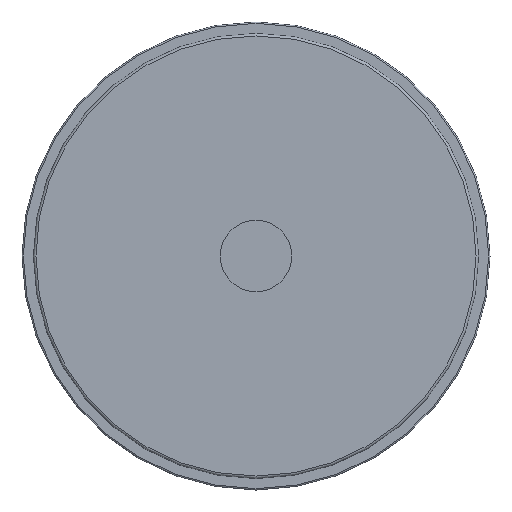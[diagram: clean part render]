
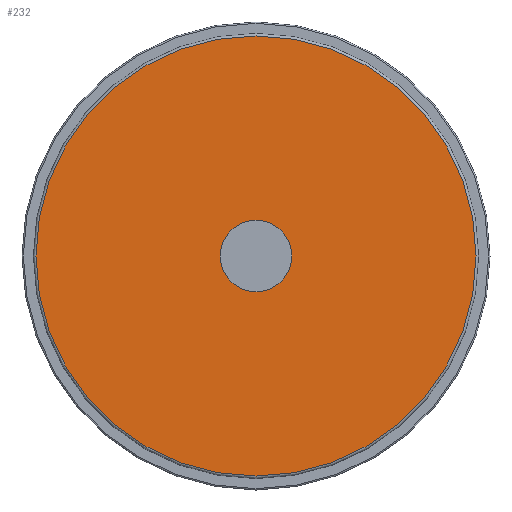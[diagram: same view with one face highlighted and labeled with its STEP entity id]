
A CAD part, left-side view. The second image highlights one B-rep face of the part: STEP entity #232.
In plain terms, the highlighted planar face has unit normal (-1, 0, 0).
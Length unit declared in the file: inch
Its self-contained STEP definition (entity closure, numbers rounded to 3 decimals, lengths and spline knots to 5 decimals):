
#46=FACE_BOUND('',#75,.T.);
#52=PLANE('',#281);
#62=FACE_OUTER_BOUND('',#74,.T.);
#74=EDGE_LOOP('',(#193,#194));
#75=EDGE_LOOP('',(#195));
#89=CIRCLE('',#258,0.42);
#103=CIRCLE('',#277,2.586);
#104=CIRCLE('',#278,2.586);
#111=VERTEX_POINT('',#404);
#124=VERTEX_POINT('',#437);
#125=VERTEX_POINT('',#439);
#132=EDGE_CURVE('',#111,#111,#89,.T.);
#147=EDGE_CURVE('',#124,#125,#103,.T.);
#148=EDGE_CURVE('',#125,#124,#104,.T.);
#193=ORIENTED_EDGE('',*,*,#148,.F.);
#194=ORIENTED_EDGE('',*,*,#147,.F.);
#195=ORIENTED_EDGE('',*,*,#132,.T.);
#232=ADVANCED_FACE('',(#62,#46),#52,.T.);
#258=AXIS2_PLACEMENT_3D('',#406,#309,#310);
#277=AXIS2_PLACEMENT_3D('',#440,#348,#349);
#278=AXIS2_PLACEMENT_3D('',#441,#350,#351);
#281=AXIS2_PLACEMENT_3D('',#445,#357,#358);
#309=DIRECTION('center_axis',(1.,0.,0.));
#310=DIRECTION('ref_axis',(0.,0.,-1.));
#348=DIRECTION('center_axis',(1.,0.,0.));
#349=DIRECTION('ref_axis',(0.,-1.,0.));
#350=DIRECTION('center_axis',(1.,0.,0.));
#351=DIRECTION('ref_axis',(0.,-1.,0.));
#357=DIRECTION('center_axis',(-1.,0.,0.));
#358=DIRECTION('ref_axis',(0.,0.,1.));
#404=CARTESIAN_POINT('',(0.,0.,0.42));
#406=CARTESIAN_POINT('Origin',(0.,0.,0.));
#437=CARTESIAN_POINT('',(0.,0.,2.586));
#439=CARTESIAN_POINT('',(0.,2.586,0.));
#440=CARTESIAN_POINT('Origin',(0.,0.,0.));
#441=CARTESIAN_POINT('Origin',(0.,0.,0.));
#445=CARTESIAN_POINT('Origin',(0.,2.616,0.));
